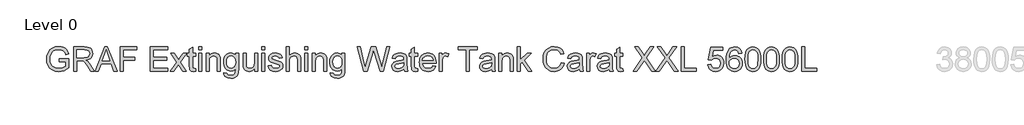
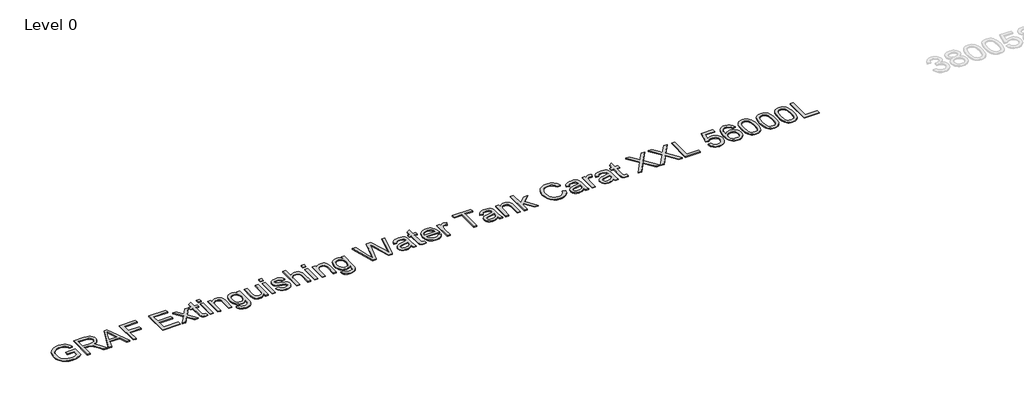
# One storey, part 4 of 37: 1 proxy.
"""IFC4 building model written with IfcOpenShell, lengths in millimetres."""

from ifc_helpers import new_model, si_unit, origin, origin_with_axes, place, context, project, spatial, polyline, outline, extrude, element, save

model = new_model("IFC4")

# Units and contexts
model_context = context("Model", 3, world=origin())
ifc_project = project(units=[si_unit("LENGTHUNIT", "METRE", prefix="MILLI")], contexts=[model_context])

# Site, building, storey
site = spatial("IfcSite", under=ifc_project)
building = spatial("IfcBuilding", under=site)
storey = spatial("IfcBuildingStorey", under=building, Name="Level 0", Elevation=0.0)

# Proxy
placement = place(None, origin())
element("IfcBuildingElementProxy", 1, Name="300mm Arial", ObjectType="300mm Arial", at=placement, inside=storey, context=model_context, shape_type="SweptSolid", body=[
    extrude(outline(polyline([(-17240.9940387, -33583.2545597), (-17240.9940387, -33545.5834434), (-17118.5629107, -33545.5834434), (-17118.5629107, -33658.2289103), (-17148.3153671, -33678.9222726), (-17179.0059225, -33693.7663111), (-17210.5610007, -33702.7058436), (-17242.9070251, -33705.6856877), (-17285.1674693, -33700.949207), (-17323.3628175, -33686.739765), (-17355.0926395, -33663.5540022), (-17377.9565055, -33631.8885595), (-17391.7796715, -33593.9047435), (-17396.3873935, -33551.7638609), (-17391.7980656, -33509.3194757), (-17378.0300819, -33469.8365406), (-17355.6536596, -33436.717964), (-17325.2390156, -33413.3666543), (-17288.1932987, -33399.5158972), (-17245.9236575, -33394.8989782), (-17214.8928112, -33397.5753197), (-17186.9889618, -33405.6043443), (-17163.4904994, -33418.4066377), (-17145.6758138, -33435.4027859), (-17132.4964413, -33457.4113262), (-17122.9039183, -33485.2507962), (-17157.6319786, -33495.0364573), (-17165.3850917, -33475.1800266), (-17174.8120678, -33460.1980323), (-17187.2832674, -33448.9040551), (-17204.169051, -33440.1116754), (-17224.3013932, -33434.4554897), (-17246.5122687, -33432.5700945), (-17272.5123287, -33434.6026425), (-17294.7415982, -33440.7002866), (-17313.1173039, -33450.0996716), (-17327.5566722, -33462.0374423), (-17346.9440533, -33491.0633317), (-17355.7732212, -33519.50061), (-17358.7162772, -33550.2187566), (-17355.175413, -33586.2436009), (-17344.5528204, -33615.8856927), (-17327.1703961, -33638.9334997), (-17303.3500369, -33655.1754898), (-17275.4737787, -33664.804801), (-17245.9236575, -33668.0145714), (-17219.831627, -33665.5957473), (-17194.3833899, -33658.3392749), (-17172.2828791, -33648.3420817), (-17156.234027, -33637.701095), (-17156.234027, -33583.2545597), (-17240.9940387, -33583.2545597)])), origin_with_axes(), (0.0, 0.0, 1.0), 10.0),
    extrude(outline(polyline([(-17057.3473467, -33700.9767982), (-17057.3473467, -33399.6078677), (-16927.4850024, -33399.6078677), (-16892.5821982, -33401.6404158), (-16867.1891434, -33407.7380598), (-16848.6294968, -33418.9952489), (-16834.2269167, -33436.5064318), (-16824.9838815, -33458.2206666), (-16821.9028698, -33482.087011), (-16827.0072325, -33511.7750881), (-16842.3203206, -33536.3863935), (-16853.9200997, -33546.4157764), (-16868.3019865, -33554.4310054), (-16905.4120827, -33564.4190016), (-16884.0013506, -33580.532233), (-16853.467145, -33619.3069952), (-16803.2144645, -33700.9767982), (-16846.9924219, -33700.9767982), (-16886.2086426, -33638.5104354), (-16914.5355562, -33597.1604991), (-16934.4379722, -33577.6259652), (-16952.3538253, -33570.4522663), (-16974.2060158, -33569.1278911), (-17019.6762304, -33569.1278911), (-17019.6762304, -33700.9767982), (-17057.3473467, -33700.9767982)]), holes=[polyline([(-17019.6762304, -33531.4567748), (-16935.3576771, -33531.4567748), (-16911.1418448, -33530.1232026), (-16892.3522719, -33526.1224859), (-16878.2072092, -33519.1879103), (-16867.9249074, -33509.0527613), (-16861.6617165, -33496.7930938), (-16859.5739861, -33483.4849626), (-16863.5563087, -33465.109257), (-16875.5032765, -33450.3020067), (-16896.058683, -33440.5347397), (-16925.8663217, -33437.278984), (-17019.6762304, -33437.278984), (-17019.6762304, -33531.4567748)])]), origin_with_axes(), (0.0, 0.0, 1.0), 10.0),
    extrude(outline(polyline([(-16791.0743586, -33700.9767982), (-16670.7769462, -33399.6078677), (-16638.6976362, -33399.6078677), (-16518.4002238, -33700.9767982), (-16558.2050557, -33700.9767982), (-16592.7123868, -33606.7990074), (-16716.835772, -33606.7990074), (-16751.2695268, -33700.9767982), (-16791.0743586, -33700.9767982)]), holes=[polyline([(-16703.003409, -33569.1278911), (-16606.4711735, -33569.1278911), (-16633.6208647, -33495.0364573), (-16654.7372912, -33437.278984), (-16673.499273, -33488.5617342), (-16703.003409, -33569.1278911)])]), origin_with_axes(), (0.0, 0.0, 1.0), 10.0),
    extrude(outline(polyline([(-16478.1539335, -33700.9767982), (-16478.1539335, -33399.6078677), (-16275.6716834, -33399.6078677), (-16275.6716834, -33437.278984), (-16440.4828172, -33437.278984), (-16440.4828172, -33526.7478853), (-16299.2161311, -33526.7478853), (-16299.2161311, -33564.4190016), (-16440.4828172, -33564.4190016), (-16440.4828172, -33700.9767982), (-16478.1539335, -33700.9767982)])), origin_with_axes(), (0.0, 0.0, 1.0), 10.0),
    extrude(outline(polyline([(-16106.15166, -33700.9767982), (-16106.15166, -33399.6078677), (-15889.5427413, -33399.6078677), (-15889.5427413, -33437.278984), (-16068.4805437, -33437.278984), (-16068.4805437, -33526.7478853), (-15898.9605203, -33526.7478853), (-15898.9605203, -33564.4190016), (-16068.4805437, -33564.4190016), (-16068.4805437, -33663.3056819), (-15884.8338517, -33663.3056819), (-15884.8338517, -33700.9767982), (-16106.15166, -33700.9767982)])), origin_with_axes(), (0.0, 0.0, 1.0), 10.0),
    extrude(outline(polyline([(-15856.5805145, -33700.9767982), (-15776.0879339, -33589.7292828), (-15851.8716249, -33479.6589899), (-15806.5485631, -33479.6589899), (-15769.9810928, -33532.6339972), (-15752.9113682, -33557.6499729), (-15738.122512, -33537.1957339), (-15696.4782702, -33479.6589899), (-15651.1552084, -33479.6589899), (-15730.7648721, -33589.7292828), (-15654.0982643, -33700.9767982), (-15699.4213261, -33700.9767982), (-15745.5537283, -33634.0958515), (-15754.0150142, -33621.8821692), (-15811.2574527, -33700.9767982), (-15856.5805145, -33700.9767982)])), origin_with_axes(), (0.0, 0.0, 1.0), 10.0),
    extrude(outline(polyline([(-15541.0849154, -33669.5596758), (-15536.3760259, -33702.0804442), (-15564.5557867, -33705.6856877), (-15582.6371868, -33704.1221892), (-15596.1200619, -33699.4316938), (-15605.6482056, -33692.2028126), (-15611.8654113, -33683.0241568), (-15615.2867139, -33667.2604133), (-15616.427148, -33640.276269), (-15616.427148, -33517.3301062), (-15644.6804853, -33517.3301062), (-15644.6804853, -33479.6589899), (-15616.427148, -33479.6589899), (-15616.427148, -33425.8746422), (-15578.7560317, -33403.7281461), (-15578.7560317, -33479.6589899), (-15541.0849154, -33479.6589899), (-15541.0849154, -33517.3301062), (-15578.7560317, -33517.3301062), (-15578.7560317, -33639.172623), (-15576.769469, -33658.5967923), (-15570.331534, -33665.4761856), (-15557.4924524, -33668.0145714), (-15541.0849154, -33669.5596758)])), origin_with_axes(), (0.0, 0.0, 1.0), 10.0),
    extrude(outline(polyline([(-15503.4137991, -33437.278984), (-15503.4137991, -33399.6078677), (-15465.7426828, -33399.6078677), (-15465.7426828, -33437.278984), (-15503.4137991, -33437.278984)])), origin_with_axes(), (0.0, 0.0, 1.0), 10.0),
    extrude(outline(polyline([(-15503.4137991, -33700.9767982), (-15503.4137991, -33479.6589899), (-15465.7426828, -33479.6589899), (-15465.7426828, -33700.9767982), (-15503.4137991, -33700.9767982)])), origin_with_axes(), (0.0, 0.0, 1.0), 10.0),
    extrude(outline(polyline([(-15409.2360084, -33700.9767982), (-15409.2360084, -33479.6589899), (-15371.564892, -33479.6589899), (-15371.564892, -33510.5610775), (-15358.4774901, -33494.981275), (-15342.7597318, -33483.8528446), (-15324.4116173, -33477.1757864), (-15303.4331465, -33474.9501003), (-15284.8643028, -33476.7435251), (-15267.8589576, -33482.1237992), (-15253.6771067, -33490.4195382), (-15243.5787459, -33500.9593574), (-15232.2847687, -33528.6608716), (-15230.2982059, -33565.0811892), (-15230.2982059, -33700.9767982), (-15267.9693222, -33700.9767982), (-15267.9693222, -33570.1579607), (-15272.3103297, -33536.8278519), (-15278.3160033, -33526.9042351), (-15287.6510089, -33519.2063044), (-15299.6163708, -33514.2674886), (-15313.5131132, -33512.6212166), (-15335.5768359, -33516.3184307), (-15354.3848029, -33527.4100729), (-15361.9010919, -33536.4645685), (-15367.2698698, -33548.8391991), (-15371.564892, -33583.5488653), (-15371.564892, -33700.9767982), (-15409.2360084, -33700.9767982)])), origin_with_axes(), (0.0, 0.0, 1.0), 10.0),
    extrude(outline(polyline([(-15187.9182001, -33719.8123563), (-15150.2470837, -33724.5212459), (-15146.0900172, -33736.2934697), (-15138.0334015, -33744.3868736), (-15122.1960816, -33750.6776557), (-15101.4659312, -33752.7745831), (-15079.3562233, -33750.4017442), (-15062.9118981, -33743.2832276), (-15051.5075562, -33731.8788858), (-15044.5177983, -33716.6485712), (-15041.9426244, -33672.7234609), (-15054.4782034, -33685.084296), (-15068.4669162, -33693.9134639), (-15083.908763, -33699.2109646), (-15100.8037436, -33700.9767982), (-15121.4580184, -33698.9212575), (-15139.6428852, -33692.7546356), (-15155.3583442, -33682.4769323), (-15168.6043953, -33668.0881478), (-15179.1143241, -33650.8252852), (-15186.621416, -33631.9253477), (-15191.1256712, -33611.3883353), (-15192.6270896, -33589.214248), (-15189.932354, -33558.7996041), (-15181.8481471, -33530.8313754), (-15168.6595776, -33507.1305779), (-15150.6517539, -33489.5182274), (-15128.4408785, -33478.5921321), (-15102.6431536, -33474.9501003), (-15085.0262045, -33477.0102395), (-15069.0371333, -33483.190657), (-15054.6759399, -33493.4913529), (-15041.9426244, -33507.9123271), (-15041.9426244, -33479.6589899), (-15004.2715081, -33479.6589899), (-15004.2715081, -33670.7368982), (-15006.846682, -33714.8551464), (-15014.5722039, -33743.908627), (-15027.8803351, -33763.1764465), (-15047.2033369, -33777.9377116), (-15072.118145, -33787.3187024), (-15102.2016952, -33790.4456994), (-15137.2516523, -33786.0403125), (-15164.851999, -33772.8241518), (-15175.2469646, -33762.9028343), (-15182.55632, -33750.7604292), (-15186.7800651, -33736.3969365), (-15187.9182001, -33719.8123563)]), holes=[polyline([(-15154.9559733, -33586.6390741), (-15150.9368625, -33621.1923905), (-15138.8795301, -33644.9483703), (-15120.7521448, -33658.716354), (-15098.5228752, -33663.3056819), (-15076.4591526, -33658.7439451), (-15058.2397968, -33645.0587349), (-15046.0169175, -33621.6062577), (-15041.9426244, -33587.7427201), (-15046.1364791, -33555.0839959), (-15058.7180433, -33531.5671394), (-15077.2041136, -33517.3576973), (-15099.1114864, -33512.6212166), (-15120.6233861, -33517.2841209), (-15138.6588009, -33531.2728338), (-15150.8816802, -33554.4402024), (-15154.9559733, -33586.6390741)])]), origin_with_axes(), (0.0, 0.0, 1.0), 10.0),
    extrude(outline(polyline([(-14806.4981475, -33700.9767982), (-14806.4981475, -33662.9377999), (-14820.1281754, -33681.6400008), (-14836.0022835, -33694.9987158), (-14854.1204717, -33703.0139447), (-14874.4827402, -33705.6856877), (-14892.8308547, -33703.8094895), (-14909.9097763, -33698.180895), (-14924.23878, -33689.7196091), (-14934.3371408, -33679.3453369), (-14945.5575416, -33651.6070344), (-14947.7648336, -33616.5846685), (-14947.7648336, -33479.6589899), (-14910.0937173, -33479.6589899), (-14910.0937173, -33598.8527563), (-14907.8128489, -33637.2596366), (-14902.3222101, -33650.0711271), (-14892.9136281, -33659.8108029), (-14880.2125022, -33665.9636293), (-14864.8442319, -33668.0145714), (-14848.5930448, -33665.917644), (-14833.3903213, -33659.6268619), (-14820.8547423, -33649.7216392), (-14812.6049886, -33636.78139), (-14808.0248577, -33619.0586749), (-14806.4981475, -33594.8060544), (-14806.4981475, -33479.6589899), (-14768.8270311, -33479.6589899), (-14768.8270311, -33700.9767982), (-14806.4981475, -33700.9767982)])), origin_with_axes(), (0.0, 0.0, 1.0), 10.0),
    extrude(outline(polyline([(-14717.0292462, -33437.278984), (-14717.0292462, -33399.6078677), (-14679.3581299, -33399.6078677), (-14679.3581299, -33437.278984), (-14717.0292462, -33437.278984)])), origin_with_axes(), (0.0, 0.0, 1.0), 10.0),
    extrude(outline(polyline([(-14717.0292462, -33700.9767982), (-14717.0292462, -33479.6589899), (-14679.3581299, -33479.6589899), (-14679.3581299, -33700.9767982), (-14717.0292462, -33700.9767982)])), origin_with_axes(), (0.0, 0.0, 1.0), 10.0),
    extrude(outline(polyline([(-14636.9781241, -33635.0523446), (-14599.3070078, -33630.3434551), (-14593.3657135, -33646.4566865), (-14581.8694012, -33658.3024867), (-14564.7444943, -33665.5865502), (-14541.9174165, -33668.0145714), (-14519.3662502, -33665.7888853), (-14503.5105362, -33659.1118271), (-14494.1295453, -33649.4365307), (-14491.0025484, -33638.2161298), (-14494.1479394, -33628.6144097), (-14503.5841126, -33621.293558), (-14542.3588749, -33610.5514038), (-14599.0862786, -33592.1205158), (-14613.4428734, -33582.8590866), (-14623.8447368, -33570.5994191), (-14630.1631101, -33556.1232626), (-14632.2692345, -33540.2123663), (-14630.5769774, -33525.6166481), (-14625.5002058, -33512.1429701), (-14617.4987724, -33500.324761), (-14607.0325297, -33490.6954497), (-14583.0834118, -33479.5486253), (-14550.673008, -33474.9501003), (-14526.153673, -33476.7987074), (-14504.8349114, -33482.3445284), (-14487.6916104, -33491.0449376), (-14475.6986574, -33502.357309), (-14467.7524063, -33517.118574), (-14462.7492112, -33536.1656643), (-14500.4203275, -33540.8745539), (-14505.1752023, -33529.0195566), (-14514.5837843, -33520.0892211), (-14528.738044, -33514.4882178), (-14547.729952, -33512.6212166), (-14569.3614134, -33514.4054443), (-14583.7823876, -33519.7581274), (-14591.8941856, -33527.4836493), (-14594.5981182, -33536.3863935), (-14590.1099579, -33547.349277), (-14576.0568657, -33555.6634101), (-14543.6096737, -33563.6832376), (-14488.3170098, -33581.4151497), (-14473.7120946, -33589.8948297), (-14462.6388466, -33601.5015067), (-14455.6582857, -33616.2719688), (-14453.3314321, -33634.2430043), (-14456.0629559, -33652.821045), (-14464.2575273, -33670.2954398), (-14477.6024467, -33685.2958281), (-14495.7850143, -33696.4518496), (-14517.7475694, -33703.3772282), (-14542.4324513, -33705.6856877), (-14580.4162673, -33701.2343156), (-14608.1361757, -33687.8801991), (-14626.64064, -33665.7704912), (-14636.9781241, -33635.0523446)])), origin_with_axes(), (0.0, 0.0, 1.0), 10.0),
    extrude(outline(polyline([(-14410.9514262, -33700.9767982), (-14410.9514262, -33399.6078677), (-14373.2803099, -33399.6078677), (-14373.2803099, -33510.4139247), (-14359.4433484, -33494.8985015), (-14343.9049326, -33483.8160564), (-14326.6650626, -33477.1665894), (-14307.7237384, -33474.9501003), (-14284.970237, -33477.3689245), (-14265.4173089, -33484.6253968), (-14250.0214474, -33496.1493003), (-14239.7391457, -33511.3704179), (-14233.9450043, -33532.2845093), (-14232.0136238, -33560.8873344), (-14232.0136238, -33700.9767982), (-14269.6847401, -33700.9767982), (-14269.6847401, -33564.7868836), (-14272.6829784, -33541.2056477), (-14281.6776931, -33525.0556281), (-14296.1722437, -33515.7298195), (-14315.6699895, -33512.6212166), (-14331.5900828, -33514.718144), (-14346.5352889, -33521.0089261), (-14358.914518, -33530.8865577), (-14367.1366806, -33543.7440334), (-14371.7444026, -33560.8321521), (-14373.2803099, -33583.4017125), (-14373.2803099, -33700.9767982), (-14410.9514262, -33700.9767982)])), origin_with_axes(), (0.0, 0.0, 1.0), 10.0),
    extrude(outline(polyline([(-14180.2158389, -33437.278984), (-14180.2158389, -33399.6078677), (-14142.5447226, -33399.6078677), (-14142.5447226, -33437.278984), (-14180.2158389, -33437.278984)])), origin_with_axes(), (0.0, 0.0, 1.0), 10.0),
    extrude(outline(polyline([(-14180.2158389, -33700.9767982), (-14180.2158389, -33479.6589899), (-14142.5447226, -33479.6589899), (-14142.5447226, -33700.9767982), (-14180.2158389, -33700.9767982)])), origin_with_axes(), (0.0, 0.0, 1.0), 10.0),
    extrude(outline(polyline([(-14086.0380481, -33700.9767982), (-14086.0380481, -33479.6589899), (-14048.3669318, -33479.6589899), (-14048.3669318, -33510.5610775), (-14035.2795298, -33494.981275), (-14019.5617716, -33483.8528446), (-14001.2136571, -33477.1757864), (-13980.2351863, -33474.9501003), (-13961.6663426, -33476.7435251), (-13944.6609974, -33482.1237992), (-13930.4791464, -33490.4195382), (-13920.3807857, -33500.9593574), (-13909.0868084, -33528.6608716), (-13907.1002456, -33565.0811892), (-13907.1002456, -33700.9767982), (-13944.771362, -33700.9767982), (-13944.771362, -33570.1579607), (-13949.1123695, -33536.8278519), (-13955.1180431, -33526.9042351), (-13964.4530487, -33519.2063044), (-13976.4184106, -33514.2674886), (-13990.315153, -33512.6212166), (-14012.3788756, -33516.3184307), (-14031.1868426, -33527.4100729), (-14038.7031316, -33536.4645685), (-14044.0719095, -33548.8391991), (-14048.3669318, -33583.5488653), (-14048.3669318, -33700.9767982), (-14086.0380481, -33700.9767982)])), origin_with_axes(), (0.0, 0.0, 1.0), 10.0),
    extrude(outline(polyline([(-13864.7202398, -33719.8123563), (-13827.0491235, -33724.5212459), (-13822.8920569, -33736.2934697), (-13814.8354413, -33744.3868736), (-13798.9981214, -33750.6776557), (-13778.2679709, -33752.7745831), (-13756.158263, -33750.4017442), (-13739.7139378, -33743.2832276), (-13728.309596, -33731.8788858), (-13721.3198381, -33716.6485712), (-13718.7446641, -33672.7234609), (-13731.2802431, -33685.084296), (-13745.268956, -33693.9134639), (-13760.7108027, -33699.2109646), (-13777.6057833, -33700.9767982), (-13798.2600581, -33698.9212575), (-13816.444925, -33692.7546356), (-13832.160384, -33682.4769323), (-13845.4064351, -33668.0881478), (-13855.9163638, -33650.8252852), (-13863.4234558, -33631.9253477), (-13867.9277109, -33611.3883353), (-13869.4291293, -33589.214248), (-13866.7343937, -33558.7996041), (-13858.6501869, -33530.8313754), (-13845.4616174, -33507.1305779), (-13827.4537937, -33489.5182274), (-13805.2429182, -33478.5921321), (-13779.4451933, -33474.9501003), (-13761.8282443, -33477.0102395), (-13745.8391731, -33483.190657), (-13731.4779797, -33493.4913529), (-13718.7446641, -33507.9123271), (-13718.7446641, -33479.6589899), (-13681.0735478, -33479.6589899), (-13681.0735478, -33670.7368982), (-13683.6487218, -33714.8551464), (-13691.3742437, -33743.908627), (-13704.6823748, -33763.1764465), (-13724.0053766, -33777.9377116), (-13748.9201848, -33787.3187024), (-13779.0037349, -33790.4456994), (-13814.053692, -33786.0403125), (-13841.6540387, -33772.8241518), (-13852.0490043, -33762.9028343), (-13859.3583597, -33750.7604292), (-13863.5821049, -33736.3969365), (-13864.7202398, -33719.8123563)]), holes=[polyline([(-13831.758013, -33586.6390741), (-13827.7389022, -33621.1923905), (-13815.6815698, -33644.9483703), (-13797.5541845, -33658.716354), (-13775.324915, -33663.3056819), (-13753.2611923, -33658.7439451), (-13735.0418365, -33645.0587349), (-13722.8189572, -33621.6062577), (-13718.7446641, -33587.7427201), (-13722.9385189, -33555.0839959), (-13735.5200831, -33531.5671394), (-13754.0061534, -33517.3576973), (-13775.9135262, -33512.6212166), (-13797.4254258, -33517.2841209), (-13815.4608406, -33531.2728338), (-13827.6837199, -33554.4402024), (-13831.758013, -33586.6390741)])]), origin_with_axes(), (0.0, 0.0, 1.0), 10.0),
    extrude(outline(polyline([(-13448.2042449, -33700.9767982), (-13530.3890826, -33399.6078677), (-13491.5407439, -33399.6078677), (-13443.8632373, -33597.6755339), (-13429.1479575, -33658.8175215), (-13413.4026081, -33604.7388682), (-13353.6585721, -33399.6078677), (-13297.6669324, -33399.6078677), (-13254.256857, -33548.3057702), (-13235.6604221, -33603.4880695), (-13221.9568178, -33658.8175215), (-13207.6829964, -33599.4413675), (-13159.5640314, -33399.6078677), (-13120.7156928, -33399.6078677), (-13202.9741069, -33700.9767982), (-13243.2203971, -33700.9767982), (-13315.472421, -33468.4753772), (-13325.5523877, -33436.0281853), (-13336.8831531, -33475.0972531), (-13402.7340303, -33700.9767982), (-13448.2042449, -33700.9767982)])), origin_with_axes(), (0.0, 0.0, 1.0), 10.0),
    extrude(outline(polyline([(-12946.4867798, -33672.7234609), (-12964.4854065, -33688.1561106), (-12983.017462, -33698.2544714), (-13002.5060107, -33703.8278836), (-13023.3741168, -33705.6856877), (-13054.8556186, -33701.2159215), (-13078.0781695, -33687.8066228), (-13092.3979762, -33667.4443543), (-13097.1712451, -33642.1156789), (-13095.3686233, -33626.4990883), (-13089.960758, -33612.3172373), (-13081.6190337, -33600.1771315), (-13071.0148352, -33590.685776), (-13044.6376962, -33578.324941), (-13012.0433514, -33572.6595583), (-12973.5261065, -33566.6998699), (-12946.707509, -33559.710112), (-12946.4867798, -33551.3224025), (-12949.0803479, -33534.5101954), (-12956.8610521, -33523.5105237), (-12974.2618705, -33515.3435434), (-12998.505294, -33512.6212166), (-13020.9460957, -33514.4330355), (-13036.6178687, -33519.868492), (-13047.3048406, -33529.9208675), (-13054.7912392, -33545.5834434), (-13092.4623555, -33540.8745539), (-13085.9232531, -33520.2731621), (-13076.1651831, -33504.0863544), (-13062.2776378, -33491.7071252), (-13043.3501092, -33482.5284694), (-13020.2011346, -33476.8446926), (-12993.6492516, -33474.9501003), (-12968.1826205, -33476.6239634), (-12947.995096, -33481.6455527), (-12932.7739785, -33489.1963306), (-12922.2065682, -33498.4577598), (-12915.1984162, -33509.9080869), (-12910.6550735, -33524.0255585), (-12908.8156635, -33556.9877853), (-12908.8156635, -33603.8559515), (-12906.9026772, -33669.3021584), (-12899.3978845, -33700.9767982), (-12937.0690008, -33700.9767982), (-12946.4867798, -33672.7234609)]), holes=[polyline([(-12946.4867798, -33597.3812283), (-13007.2608854, -33608.932723), (-13039.6712892, -33615.0395641), (-13054.3497808, -33624.972378), (-13059.5001288, -33639.4669286), (-13056.6950285, -33650.6689353), (-13048.2797279, -33659.8475911), (-13034.4381678, -33665.9728263), (-13015.3542893, -33668.0145714), (-12995.1207796, -33665.7612942), (-12977.2417146, -33659.0014625), (-12962.747164, -33649.0410575), (-12952.6671974, -33637.1860602), (-12948.1974311, -33624.972378), (-12946.707509, -33608.0498062), (-12946.4867798, -33597.3812283)])]), origin_with_axes(), (0.0, 0.0, 1.0), 10.0),
    extrude(outline(polyline([(-12776.9667565, -33669.5596758), (-12772.2578669, -33702.0804442), (-12800.4376278, -33705.6856877), (-12818.5190278, -33704.1221892), (-12832.0019029, -33699.4316938), (-12841.5300466, -33692.2028126), (-12847.7472523, -33683.0241568), (-12851.1685549, -33667.2604133), (-12852.3089891, -33640.276269), (-12852.3089891, -33517.3301062), (-12880.5623263, -33517.3301062), (-12880.5623263, -33479.6589899), (-12852.3089891, -33479.6589899), (-12852.3089891, -33425.8746422), (-12814.6378728, -33403.7281461), (-12814.6378728, -33479.6589899), (-12776.9667565, -33479.6589899), (-12776.9667565, -33517.3301062), (-12814.6378728, -33517.3301062), (-12814.6378728, -33639.172623), (-12812.65131, -33658.5967923), (-12806.2133751, -33665.4761856), (-12793.3742934, -33668.0145714), (-12776.9667565, -33669.5596758)])), origin_with_axes(), (0.0, 0.0, 1.0), 10.0),
    extrude(outline(polyline([(-12584.3437438, -33635.0523446), (-12547.4083915, -33639.7612342), (-12560.7165226, -33667.5915071), (-12581.9525108, -33688.3952339), (-12610.6381094, -33701.3630743), (-12646.2950718, -33705.6856877), (-12669.669374, -33703.8209859), (-12690.4960935, -33698.2268803), (-12708.7752301, -33688.9033709), (-12724.506784, -33675.8504579), (-12737.1573261, -33659.4314246), (-12746.1934276, -33640.0095545), (-12751.6150885, -33617.5848477), (-12753.4223088, -33592.157304), (-12751.5966944, -33565.8675369), (-12746.1198512, -33542.6955698), (-12736.9917792, -33522.6414025), (-12724.2124784, -33505.7050351), (-12708.5223113, -33492.2497512), (-12690.6616404, -33482.638834), (-12670.6304658, -33476.8722838), (-12648.4287873, -33474.9501003), (-12626.9421796, -33476.8676852), (-12607.5111124, -33482.6204399), (-12590.1355859, -33492.2083644), (-12574.8156001, -33505.6314587), (-12562.3099115, -33522.5310379), (-12553.3772768, -33542.548417), (-12548.017696, -33565.6835959), (-12546.2311691, -33591.9365748), (-12546.4518983, -33602.0901179), (-12715.7511925, -33602.0901179), (-12709.2304841, -33630.2882728), (-12694.0829429, -33651.0184232), (-12672.2215554, -33663.7655344), (-12645.5593078, -33668.0145714), (-12625.509739, -33666.0464027), (-12608.6239555, -33660.1418967), (-12594.901957, -33649.9331713), (-12584.3437438, -33635.0523446)]), holes=[polyline([(-12715.7511925, -33564.4190016), (-12583.9022854, -33564.4190016), (-12588.997451, -33544.5165856), (-12598.9854472, -33530.2795524), (-12620.9480023, -33517.0358006), (-12648.5759401, -33512.6212166), (-12673.9689949, -33516.1436868), (-12694.9658597, -33526.7110971), (-12709.5615779, -33543.1830134), (-12715.7511925, -33564.4190016)])]), origin_with_axes(), (0.0, 0.0, 1.0), 10.0),
    extrude(outline(polyline([(-12508.5600528, -33700.9767982), (-12508.5600528, -33479.6589899), (-12475.597826, -33479.6589899), (-12475.597826, -33512.4004875), (-12463.420932, -33493.4177765), (-12452.2005311, -33482.2341638), (-12440.9433421, -33476.7711162), (-12428.6560834, -33474.9501003), (-12409.8941017, -33477.8563681), (-12390.8378143, -33486.5751714), (-12403.4193786, -33520.3467385), (-12416.6631304, -33514.5525971), (-12429.9068822, -33512.6212166), (-12441.1548742, -33514.4790207), (-12451.2072497, -33520.052433), (-12459.3282448, -33528.918389), (-12464.7820954, -33540.6538247), (-12469.3622262, -33561.6966748), (-12470.8889365, -33584.6525113), (-12470.8889365, -33700.9767982), (-12508.5600528, -33700.9767982)])), origin_with_axes(), (0.0, 0.0, 1.0), 10.0),
    extrude(outline(polyline([(-12169.520006, -33700.9767982), (-12169.520006, -33437.278984), (-12268.4066863, -33437.278984), (-12268.4066863, -33399.6078677), (-12032.9622094, -33399.6078677), (-12032.9622094, -33437.278984), (-12131.8488897, -33437.278984), (-12131.8488897, -33700.9767982), (-12169.520006, -33700.9767982)])), origin_with_axes(), (0.0, 0.0, 1.0), 10.0),
    extrude(outline(polyline([(-11854.024407, -33672.7234609), (-11872.0230336, -33688.1561106), (-11890.5550891, -33698.2544714), (-11910.0436378, -33703.8278836), (-11930.911744, -33705.6856877), (-11962.3932457, -33701.2159215), (-11985.6157966, -33687.8066228), (-11999.9356033, -33667.4443543), (-12004.7088722, -33642.1156789), (-12002.9062504, -33626.4990883), (-11997.4983851, -33612.3172373), (-11989.1566608, -33600.1771315), (-11978.5524623, -33590.685776), (-11952.1753233, -33578.324941), (-11919.5809785, -33572.6595583), (-11881.0637336, -33566.6998699), (-11854.2451362, -33559.710112), (-11854.024407, -33551.3224025), (-11856.617975, -33534.5101954), (-11864.3986792, -33523.5105237), (-11881.7994976, -33515.3435434), (-11906.0429211, -33512.6212166), (-11928.4837228, -33514.4330355), (-11944.1554958, -33519.868492), (-11954.8424677, -33529.9208675), (-11962.3288663, -33545.5834434), (-11999.9999826, -33540.8745539), (-11993.4608802, -33520.2731621), (-11983.7028103, -33504.0863544), (-11969.8152649, -33491.7071252), (-11950.8877363, -33482.5284694), (-11927.7387617, -33476.8446926), (-11901.1868787, -33474.9501003), (-11875.7202476, -33476.6239634), (-11855.5327231, -33481.6455527), (-11840.3116056, -33489.1963306), (-11829.7441953, -33498.4577598), (-11822.7360433, -33509.9080869), (-11818.1927006, -33524.0255585), (-11816.3532907, -33556.9877853), (-11816.3532907, -33603.8559515), (-11814.4403043, -33669.3021584), (-11806.9355116, -33700.9767982), (-11844.6066279, -33700.9767982), (-11854.024407, -33672.7234609)]), holes=[polyline([(-11854.024407, -33597.3812283), (-11914.7985126, -33608.932723), (-11947.2089163, -33615.0395641), (-11961.8874079, -33624.972378), (-11967.0377559, -33639.4669286), (-11964.2326557, -33650.6689353), (-11955.817355, -33659.8475911), (-11941.975795, -33665.9728263), (-11922.8919165, -33668.0145714), (-11902.6584067, -33665.7612942), (-11884.7793418, -33659.0014625), (-11870.2847911, -33649.0410575), (-11860.2048245, -33637.1860602), (-11855.7350582, -33624.972378), (-11854.2451362, -33608.0498062), (-11854.024407, -33597.3812283)])]), origin_with_axes(), (0.0, 0.0, 1.0), 10.0),
    extrude(outline(polyline([(-11764.5555057, -33700.9767982), (-11764.5555057, -33479.6589899), (-11726.8843894, -33479.6589899), (-11726.8843894, -33510.5610775), (-11713.7969875, -33494.981275), (-11698.0792292, -33483.8528446), (-11679.7311147, -33477.1757864), (-11658.7526439, -33474.9501003), (-11640.1838002, -33476.7435251), (-11623.178455, -33482.1237992), (-11608.9966041, -33490.4195382), (-11598.8982433, -33500.9593574), (-11587.6042661, -33528.6608716), (-11585.6177033, -33565.0811892), (-11585.6177033, -33700.9767982), (-11623.2888196, -33700.9767982), (-11623.2888196, -33570.1579607), (-11627.6298271, -33536.8278519), (-11633.6355007, -33526.9042351), (-11642.9705063, -33519.2063044), (-11654.9358682, -33514.2674886), (-11668.8326106, -33512.6212166), (-11690.8963333, -33516.3184307), (-11709.7043003, -33527.4100729), (-11717.2205893, -33536.4645685), (-11722.5893671, -33548.8391991), (-11726.8843894, -33583.5488653), (-11726.8843894, -33700.9767982), (-11764.5555057, -33700.9767982)])), origin_with_axes(), (0.0, 0.0, 1.0), 10.0),
    extrude(outline(polyline([(-11533.8199184, -33700.9767982), (-11533.8199184, -33399.6078677), (-11496.1488021, -33399.6078677), (-11496.1488021, -33561.549522), (-11411.683096, -33479.6589899), (-11359.5910054, -33479.6589899), (-11445.0867811, -33562.5795916), (-11354.8821159, -33700.9767982), (-11398.8808025, -33700.9767982), (-11472.0893196, -33588.7727896), (-11496.1488021, -33612.0965081), (-11496.1488021, -33700.9767982), (-11533.8199184, -33700.9767982)])), origin_with_axes(), (0.0, 0.0, 1.0), 10.0),
    extrude(outline(polyline([(-10987.5887319, -33593.8495612), (-10949.9176156, -33603.5616459), (-10957.3718245, -33626.9888312), (-10967.3000399, -33647.4591649), (-10979.7022617, -33664.9726472), (-10994.5784898, -33679.5292779), (-11011.5930321, -33690.9727072), (-11030.4101962, -33699.1465853), (-11051.029982, -33704.0509121), (-11073.4523896, -33705.6856877), (-11117.1475736, -33700.7376749), (-11151.8480428, -33685.8936364), (-11178.445911, -33661.668607), (-11197.8332922, -33628.5776215), (-11209.6698954, -33589.6741005), (-11213.6154298, -33548.0114646), (-11209.1548606, -33504.0679603), (-11195.773153, -33466.1209325), (-11174.1692828, -33435.3751947), (-11145.0422259, -33413.0355606), (-11110.4981065, -33399.4331238), (-11072.6430492, -33394.8989782), (-11031.3390982, -33400.766696), (-11013.370362, -33408.1013433), (-10997.190452, -33418.3698495), (-10983.0660826, -33431.3009016), (-10971.2639684, -33446.6231867), (-10954.6265052, -33484.4414558), (-10992.2976215, -33493.4177765), (-11005.3574323, -33465.9461885), (-11023.1997091, -33447.1014333), (-11046.045181, -33436.2029292), (-11074.1145772, -33432.5700945), (-11106.4697987, -33436.5984023), (-11133.0492728, -33448.6833259), (-11153.2184032, -33467.5556722), (-11166.3425934, -33491.9462485), (-11173.5438834, -33519.5190041), (-11175.9443135, -33547.9378882), (-11173.102425, -33582.7395249), (-11164.5767598, -33612.8322721), (-11150.045421, -33637.0664986), (-11129.1865119, -33654.292573), (-11104.1797332, -33664.5840718), (-11077.2047859, -33668.0145714), (-11045.7600724, -33663.3424701), (-11019.5576773, -33649.3261661), (-10999.774823, -33626.1128122), (-10987.5887319, -33593.8495612)])), origin_with_axes(), (0.0, 0.0, 1.0), 10.0),
    extrude(outline(polyline([(-10761.5620341, -33672.7234609), (-10779.5606607, -33688.1561106), (-10798.0927162, -33698.2544714), (-10817.5812649, -33703.8278836), (-10838.4493711, -33705.6856877), (-10869.9308728, -33701.2159215), (-10893.1534238, -33687.8066228), (-10907.4732304, -33667.4443543), (-10912.2464993, -33642.1156789), (-10910.4438775, -33626.4990883), (-10905.0360122, -33612.3172373), (-10896.694288, -33600.1771315), (-10886.0900895, -33590.685776), (-10859.7129504, -33578.324941), (-10827.1186056, -33572.6595583), (-10788.6013607, -33566.6998699), (-10761.7827633, -33559.710112), (-10761.5620341, -33551.3224025), (-10764.1556022, -33534.5101954), (-10771.9363064, -33523.5105237), (-10789.3371247, -33515.3435434), (-10813.5805482, -33512.6212166), (-10836.0213499, -33514.4330355), (-10851.6931229, -33519.868492), (-10862.3800949, -33529.9208675), (-10869.8664935, -33545.5834434), (-10907.5376098, -33540.8745539), (-10900.9985073, -33520.2731621), (-10891.2404374, -33504.0863544), (-10877.3528921, -33491.7071252), (-10858.4253634, -33482.5284694), (-10835.2763889, -33476.8446926), (-10808.7245059, -33474.9501003), (-10783.2578748, -33476.6239634), (-10763.0703503, -33481.6455527), (-10747.8492327, -33489.1963306), (-10737.2818224, -33498.4577598), (-10730.2736704, -33509.9080869), (-10725.7303278, -33524.0255585), (-10723.8909178, -33556.9877853), (-10723.8909178, -33603.8559515), (-10721.9779314, -33669.3021584), (-10714.4731387, -33700.9767982), (-10752.144255, -33700.9767982), (-10761.5620341, -33672.7234609)]), holes=[polyline([(-10761.5620341, -33597.3812283), (-10822.3361397, -33608.932723), (-10854.7465435, -33615.0395641), (-10869.4250351, -33624.972378), (-10874.575383, -33639.4669286), (-10871.7702828, -33650.6689353), (-10863.3549822, -33659.8475911), (-10849.5134221, -33665.9728263), (-10830.4295436, -33668.0145714), (-10810.1960338, -33665.7612942), (-10792.3169689, -33659.0014625), (-10777.8224183, -33649.0410575), (-10767.7424516, -33637.1860602), (-10763.2726854, -33624.972378), (-10761.7827633, -33608.0498062), (-10761.5620341, -33597.3812283)])]), origin_with_axes(), (0.0, 0.0, 1.0), 10.0),
    extrude(outline(polyline([(-10672.0931329, -33700.9767982), (-10672.0931329, -33479.6589899), (-10639.1309061, -33479.6589899), (-10639.1309061, -33512.4004875), (-10626.9540121, -33493.4177765), (-10615.7336112, -33482.2341638), (-10604.4764221, -33476.7711162), (-10592.1891635, -33474.9501003), (-10573.4271818, -33477.8563681), (-10554.3708944, -33486.5751714), (-10566.9524586, -33520.3467385), (-10580.1962105, -33514.5525971), (-10593.4399623, -33512.6212166), (-10604.6879543, -33514.4790207), (-10614.7403298, -33520.052433), (-10622.8613249, -33528.918389), (-10628.3151754, -33540.6538247), (-10632.8953063, -33561.6966748), (-10634.4220166, -33584.6525113), (-10634.4220166, -33700.9767982), (-10672.0931329, -33700.9767982)])), origin_with_axes(), (0.0, 0.0, 1.0), 10.0),
    extrude(outline(polyline([(-10389.5597606, -33672.7234609), (-10407.5583872, -33688.1561106), (-10426.0904427, -33698.2544714), (-10445.5789914, -33703.8278836), (-10466.4470976, -33705.6856877), (-10497.9285993, -33701.2159215), (-10521.1511502, -33687.8066228), (-10535.4709569, -33667.4443543), (-10540.2442258, -33642.1156789), (-10538.441604, -33626.4990883), (-10533.0337387, -33612.3172373), (-10524.6920144, -33600.1771315), (-10514.0878159, -33590.685776), (-10487.7106769, -33578.324941), (-10455.1163321, -33572.6595583), (-10416.5990872, -33566.6998699), (-10389.7804898, -33559.710112), (-10389.5597606, -33551.3224025), (-10392.1533286, -33534.5101954), (-10399.9340328, -33523.5105237), (-10417.3348512, -33515.3435434), (-10441.5782747, -33512.6212166), (-10464.0190764, -33514.4330355), (-10479.6908494, -33519.868492), (-10490.3778213, -33529.9208675), (-10497.8642199, -33545.5834434), (-10535.5353362, -33540.8745539), (-10528.9962338, -33520.2731621), (-10519.2381639, -33504.0863544), (-10505.3506185, -33491.7071252), (-10486.4230899, -33482.5284694), (-10463.2741153, -33476.8446926), (-10436.7222323, -33474.9501003), (-10411.2556012, -33476.6239634), (-10391.0680767, -33481.6455527), (-10375.8469592, -33489.1963306), (-10365.2795489, -33498.4577598), (-10358.2713969, -33509.9080869), (-10353.7280542, -33524.0255585), (-10351.8886443, -33556.9877853), (-10351.8886443, -33603.8559515), (-10349.9756579, -33669.3021584), (-10342.4708652, -33700.9767982), (-10380.1419815, -33700.9767982), (-10389.5597606, -33672.7234609)]), holes=[polyline([(-10389.5597606, -33597.3812283), (-10450.3338662, -33608.932723), (-10482.7442699, -33615.0395641), (-10497.4227615, -33624.972378), (-10502.5731095, -33639.4669286), (-10499.7680093, -33650.6689353), (-10491.3527086, -33659.8475911), (-10477.5111486, -33665.9728263), (-10458.4272701, -33668.0145714), (-10438.1937603, -33665.7612942), (-10420.3146954, -33659.0014625), (-10405.8201448, -33649.0410575), (-10395.7401781, -33637.1860602), (-10391.2704118, -33624.972378), (-10389.7804898, -33608.0498062), (-10389.5597606, -33597.3812283)])]), origin_with_axes(), (0.0, 0.0, 1.0), 10.0),
    extrude(outline(polyline([(-10220.0397372, -33669.5596758), (-10215.3308476, -33702.0804442), (-10243.5106085, -33705.6856877), (-10261.5920085, -33704.1221892), (-10275.0748837, -33699.4316938), (-10284.6030273, -33692.2028126), (-10290.8202331, -33683.0241568), (-10294.2415356, -33667.2604133), (-10295.3819698, -33640.276269), (-10295.3819698, -33517.3301062), (-10323.635307, -33517.3301062), (-10323.635307, -33479.6589899), (-10295.3819698, -33479.6589899), (-10295.3819698, -33425.8746422), (-10257.7108535, -33403.7281461), (-10257.7108535, -33479.6589899), (-10220.0397372, -33479.6589899), (-10220.0397372, -33517.3301062), (-10257.7108535, -33517.3301062), (-10257.7108535, -33639.172623), (-10255.7242907, -33658.5967923), (-10249.2863558, -33665.4761856), (-10236.4472742, -33668.0145714), (-10220.0397372, -33669.5596758)])), origin_with_axes(), (0.0, 0.0, 1.0), 10.0),
    extrude(outline(polyline([(-10092.8997197, -33700.9767982), (-9976.7225856, -33536.7542755), (-10074.0641615, -33399.6078677), (-10028.8882525, -33399.6078677), (-9974.0738352, -33476.7895103), (-9955.6061591, -33506.8822575), (-9933.9746977, -33476.2744755), (-9879.7488916, -33399.6078677), (-9833.910795, -33399.6078677), (-9931.252371, -33537.1957339), (-9815.0752369, -33700.9767982), (-9860.2511459, -33700.9767982), (-9937.6535177, -33591.789422), (-9953.7667491, -33569.1278911), (-9971.4986612, -33593.996714), (-10047.0616231, -33700.9767982), (-10092.8997197, -33700.9767982)])), origin_with_axes(), (0.0, 0.0, 1.0), 10.0),
    extrude(outline(polyline([(-9810.3663474, -33700.9767982), (-9694.1892133, -33536.7542755), (-9791.5307892, -33399.6078677), (-9746.3548802, -33399.6078677), (-9691.5404629, -33476.7895103), (-9673.0727868, -33506.8822575), (-9651.4413254, -33476.2744755), (-9597.2155194, -33399.6078677), (-9551.3774228, -33399.6078677), (-9648.7189987, -33537.1957339), (-9532.5418646, -33700.9767982), (-9577.7177736, -33700.9767982), (-9655.1201454, -33591.789422), (-9671.2333768, -33569.1278911), (-9688.9652889, -33593.996714), (-9764.5282508, -33700.9767982), (-9810.3663474, -33700.9767982)])), origin_with_axes(), (0.0, 0.0, 1.0), 10.0),
    extrude(outline(polyline([(-9494.8707483, -33700.9767982), (-9494.8707483, -33399.6078677), (-9457.199632, -33399.6078677), (-9457.199632, -33663.3056819), (-9306.5151668, -33663.3056819), (-9306.5151668, -33700.9767982), (-9494.8707483, -33700.9767982)])), origin_with_axes(), (0.0, 0.0, 1.0), 10.0),
    extrude(outline(polyline([(-9160.5395911, -33620.925676), (-9122.8684748, -33616.2167865), (-9115.9522933, -33638.8323321), (-9103.8857638, -33655.028337), (-9086.7240687, -33664.7680128), (-9064.5223903, -33668.0145714), (-9037.5198519, -33663.4988199), (-9017.2863422, -33649.9515654), (-9004.6495956, -33628.9363065), (-9000.4373468, -33602.0165415), (-9004.3828812, -33576.669472), (-9016.2194844, -33557.2820909), (-9036.0391269, -33544.9764381), (-9063.9337791, -33540.8745539), (-9082.2083173, -33542.5116288), (-9097.0063705, -33547.4228534), (-9118.1595852, -33564.4190016), (-9155.8307015, -33559.710112), (-9122.8684748, -33404.3167573), (-8976.8928991, -33404.3167573), (-8976.8928991, -33441.9878736), (-9092.4078456, -33441.9878736), (-9108.521077, -33524.9820517), (-9081.610509, -33508.6480911), (-9053.4123541, -33503.2034376), (-9035.0665388, -33504.8910962), (-9018.2152442, -33509.9540722), (-9002.8584702, -33518.3923654), (-8988.9962167, -33530.205976), (-8977.5205977, -33544.6729355), (-8969.323727, -33561.0712754), (-8964.4056046, -33579.4009958), (-8962.7662305, -33599.6620967), (-8968.6707365, -33637.333213), (-8976.051369, -33654.1270261), (-8986.3842546, -33669.5596758), (-9002.0376335, -33685.364806), (-9020.3029745, -33696.6541847), (-9041.1802777, -33703.427812), (-9064.6695431, -33705.6856877), (-9101.6692748, -33699.8823492), (-9117.3479456, -33692.6281762), (-9131.1458197, -33682.4723338), (-9142.6260372, -33669.92066), (-9151.3517382, -33655.4789924), (-9160.5395911, -33620.925676)])), origin_with_axes(), (0.0, 0.0, 1.0), 10.0),
    extrude(outline(polyline([(-8736.7395326, -33479.6589899), (-8774.4106489, -33484.3678794), (-8780.4807019, -33465.6978682), (-8788.6844704, -33452.950757), (-8805.772589, -33441.1969273), (-8826.4291631, -33437.278984), (-8843.940346, -33439.5598524), (-8860.4214594, -33446.4024575), (-8874.5757192, -33460.8142347), (-8886.1364109, -33480.6522713), (-8893.9447062, -33508.7124704), (-8896.8417769, -33547.7907354), (-8881.731024, -33530.1599908), (-8863.6220328, -33517.7347764), (-8843.5264788, -33510.3679394), (-8822.4560375, -33507.9123271), (-8804.3562433, -33509.5907887), (-8787.6544008, -33514.6261735), (-8772.3505098, -33523.0184815), (-8758.4445703, -33534.7677128), (-8746.8884772, -33549.1748914), (-8738.6341249, -33565.5410417), (-8733.6815135, -33583.8661635), (-8732.0306431, -33604.150257), (-8735.139246, -33631.1252043), (-8744.4650545, -33656.131983), (-8759.2355166, -33677.34038), (-8778.6780801, -33692.9201825), (-8801.9098281, -33702.4943114), (-8828.0478438, -33705.6856877), (-8850.5047404, -33703.5703662), (-8870.7865346, -33697.2244018), (-8888.8932266, -33686.6477945), (-8904.8248162, -33671.8405442), (-8917.8133499, -33652.1772515), (-8927.090874, -33627.0325171), (-8932.6573884, -33596.406341), (-8934.5128932, -33560.2987232), (-8932.4527541, -33519.8179082), (-8926.2723365, -33485.2691903), (-8915.9716407, -33456.6525696), (-8901.5506665, -33433.9680461), (-8885.9202802, -33418.9354681), (-8867.7974934, -33408.1979123), (-8847.1823061, -33401.7553789), (-8824.0747183, -33399.6078677), (-8791.020521, -33404.9237626), (-8764.5514115, -33420.8714471), (-8746.0101589, -33446.2001224), (-8736.7395326, -33479.6589899)]), holes=[polyline([(-8896.8417769, -33603.5616459), (-8894.6620761, -33620.2542914), (-8888.1229736, -33636.1927788), (-8877.9694306, -33649.8963831), (-8864.946408, -33659.8843793), (-8849.2286497, -33665.9820234), (-8830.9908998, -33668.0145714), (-8806.131274, -33663.8023226), (-8786.587543, -33651.165576), (-8773.9232053, -33631.2999483), (-8769.7017594, -33605.4010558), (-8773.868023, -33580.54143), (-8786.3668138, -33561.5863102), (-8806.2416386, -33549.5841601), (-8832.5360042, -33545.5834434), (-8857.3588418, -33549.5841601), (-8878.1165834, -33561.5863102), (-8892.1604785, -33580.0815775), (-8896.8417769, -33603.5616459)])]), origin_with_axes(), (0.0, 0.0, 1.0), 10.0),
    extrude(outline(polyline([(-8699.0684163, -33552.7203541), (-8696.3001043, -33504.4818275), (-8687.9951683, -33466.0105679), (-8674.2363817, -33436.717964), (-8655.1065179, -33416.0154047), (-8630.4676213, -33403.709752), (-8600.181736, -33399.6078677), (-8576.9683821, -33402.0358889), (-8556.1830494, -33409.3199524), (-8538.8006251, -33421.1749497), (-8525.7959966, -33437.3157722), (-8515.9735473, -33457.6044643), (-8508.1376608, -33481.9030701), (-8503.005707, -33512.7591724), (-8501.2950557, -33552.7203541), (-8504.0357766, -33600.6829692), (-8512.2579392, -33639.0622584), (-8525.9339523, -33668.3824534), (-8545.0362249, -33689.1677861), (-8569.7303039, -33701.5562123), (-8600.181736, -33705.6856877), (-8620.9302806, -33703.892263), (-8639.3243803, -33698.5119888), (-8655.3640353, -33689.5448652), (-8669.0492455, -33676.9908921), (-8682.1826327, -33654.2971715), (-8691.5636236, -33626.0208417), (-8697.1922182, -33592.1619025), (-8699.0684163, -33552.7203541)]), holes=[polyline([(-8661.3973, -33552.6467777), (-8656.9827161, -33611.9033701), (-8651.4644862, -33632.1713688), (-8643.7389643, -33646.1991691), (-8624.0204893, -33662.5607208), (-8600.181736, -33668.0145714), (-8576.3429827, -33662.5423267), (-8556.6245078, -33646.1255927), (-8548.8989859, -33632.0747997), (-8543.380756, -33611.8113996), (-8538.966172, -33552.6467777), (-8543.2336032, -33494.7237576), (-8548.5678921, -33474.5224375), (-8556.0358966, -33460.1612441), (-8575.7175833, -33442.9995491), (-8600.6231944, -33437.278984), (-8624.2044303, -33442.3189674), (-8643.1503531, -33457.4389174), (-8651.1333924, -33473.0739022), (-8656.8355633, -33494.1535405), (-8661.3973, -33552.6467777)])]), origin_with_axes(), (0.0, 0.0, 1.0), 10.0),
    extrude(outline(polyline([(-8468.332829, -33552.7203541), (-8465.5645169, -33504.4818275), (-8457.2595809, -33466.0105679), (-8443.5007943, -33436.717964), (-8424.3709305, -33416.0154047), (-8399.7320339, -33403.709752), (-8369.4461486, -33399.6078677), (-8346.2327948, -33402.0358889), (-8325.447462, -33409.3199524), (-8308.0650378, -33421.1749497), (-8295.0604092, -33437.3157722), (-8285.23796, -33457.6044643), (-8277.4020735, -33481.9030701), (-8272.2701196, -33512.7591724), (-8270.5594683, -33552.7203541), (-8273.3001892, -33600.6829692), (-8281.5223518, -33639.0622584), (-8295.198365, -33668.3824534), (-8314.3006376, -33689.1677861), (-8338.9947165, -33701.5562123), (-8369.4461486, -33705.6856877), (-8390.1946932, -33703.892263), (-8408.5887929, -33698.5119888), (-8424.6284479, -33689.5448652), (-8438.3136581, -33676.9908921), (-8451.4470454, -33654.2971715), (-8460.8280363, -33626.0208417), (-8466.4566308, -33592.1619025), (-8468.332829, -33552.7203541)]), holes=[polyline([(-8430.6617126, -33552.6467777), (-8426.2471287, -33611.9033701), (-8420.7288988, -33632.1713688), (-8413.0033769, -33646.1991691), (-8393.2849019, -33662.5607208), (-8369.4461486, -33668.0145714), (-8345.6073954, -33662.5423267), (-8325.8889204, -33646.1255927), (-8318.1633985, -33632.0747997), (-8312.6451686, -33611.8113996), (-8308.2305847, -33552.6467777), (-8312.4980158, -33494.7237576), (-8317.8323047, -33474.5224375), (-8325.3003092, -33460.1612441), (-8344.981996, -33442.9995491), (-8369.887607, -33437.278984), (-8393.4688429, -33442.3189674), (-8412.4147657, -33457.4389174), (-8420.397805, -33473.0739022), (-8426.0999759, -33494.1535405), (-8430.6617126, -33552.6467777)])]), origin_with_axes(), (0.0, 0.0, 1.0), 10.0),
    extrude(outline(polyline([(-8237.5972416, -33552.7203541), (-8234.8289296, -33504.4818275), (-8226.5239935, -33466.0105679), (-8212.7652069, -33436.717964), (-8193.6353432, -33416.0154047), (-8168.9964465, -33403.709752), (-8138.7105613, -33399.6078677), (-8115.4972074, -33402.0358889), (-8094.7118747, -33409.3199524), (-8077.3294504, -33421.1749497), (-8064.3248218, -33437.3157722), (-8054.5023726, -33457.6044643), (-8046.6664861, -33481.9030701), (-8041.5345322, -33512.7591724), (-8039.823881, -33552.7203541), (-8042.5646018, -33600.6829692), (-8050.7867644, -33639.0622584), (-8064.4627776, -33668.3824534), (-8083.5650502, -33689.1677861), (-8108.2591291, -33701.5562123), (-8138.7105613, -33705.6856877), (-8159.4591058, -33703.892263), (-8177.8532056, -33698.5119888), (-8193.8928606, -33689.5448652), (-8207.5780708, -33676.9908921), (-8220.711458, -33654.2971715), (-8230.0924489, -33626.0208417), (-8235.7210434, -33592.1619025), (-8237.5972416, -33552.7203541)]), holes=[polyline([(-8199.9261253, -33552.6467777), (-8195.5115413, -33611.9033701), (-8189.9933114, -33632.1713688), (-8182.2677895, -33646.1991691), (-8162.5493146, -33662.5607208), (-8138.7105613, -33668.0145714), (-8114.871808, -33662.5423267), (-8095.153333, -33646.1255927), (-8087.4278111, -33632.0747997), (-8081.9095812, -33611.8113996), (-8077.4949973, -33552.6467777), (-8081.7624284, -33494.7237576), (-8087.0967174, -33474.5224375), (-8094.5647219, -33460.1612441), (-8114.2464086, -33442.9995491), (-8139.1520197, -33437.278984), (-8162.7332556, -33442.3189674), (-8181.6791783, -33457.4389174), (-8189.6622176, -33473.0739022), (-8195.3643885, -33494.1535405), (-8199.9261253, -33552.6467777)])]), origin_with_axes(), (0.0, 0.0, 1.0), 10.0),
    extrude(outline(polyline([(-7992.7349856, -33700.9767982), (-7992.7349856, -33399.6078677), (-7955.0638693, -33399.6078677), (-7955.0638693, -33663.3056819), (-7804.3794041, -33663.3056819), (-7804.3794041, -33700.9767982), (-7992.7349856, -33700.9767982)])), origin_with_axes(), (0.0, 0.0, 1.0), 10.0),
])

save(model, "model.ifc")
